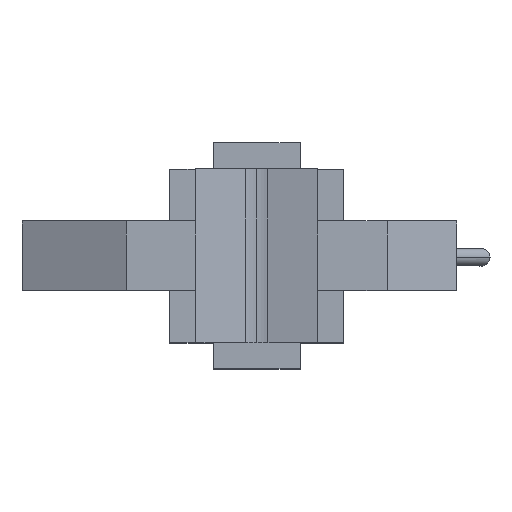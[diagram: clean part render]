
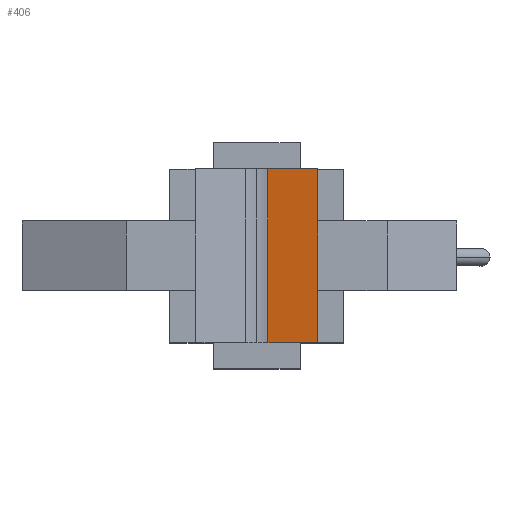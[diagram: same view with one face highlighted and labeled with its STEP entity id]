
A CAD part, top view. The second image highlights one B-rep face of the part: STEP entity #406.
In plain terms, the highlighted planar face has unit normal (-0.215, 0, 0.977) as drawn and (-0.977, 0.215, 0) by its records, which use the part's own axes.
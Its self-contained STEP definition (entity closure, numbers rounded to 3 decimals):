
#180 = EDGE_CURVE ( 'NONE', #830, #214, #1252, .T. ) ;
#212 = EDGE_CURVE ( 'NONE', #214, #651, #1264, .T. ) ;
#214 = VERTEX_POINT ( 'NONE', #1320 ) ;
#317 = EDGE_CURVE ( 'NONE', #318, #664, #1479, .T. ) ;
#318 = VERTEX_POINT ( 'NONE', #1475 ) ;
#372 = EDGE_CURVE ( 'NONE', #318, #654, #1525, .T. ) ;
#387 = ORIENTED_EDGE ( 'NONE', *, *, #889, .T. ) ;
#388 = ORIENTED_EDGE ( 'NONE', *, *, #317, .F. ) ;
#389 = ORIENTED_EDGE ( 'NONE', *, *, #372, .T. ) ;
#390 = ORIENTED_EDGE ( 'NONE', *, *, #653, .T. ) ;
#391 = ORIENTED_EDGE ( 'NONE', *, *, #212, .F. ) ;
#406 = ADVANCED_FACE ( 'NONE', ( #1565 ), #1564, .F. ) ;
#407 = EDGE_LOOP ( 'NONE', ( #408, #387, #388, #389, #390, #391 ) ) ;
#408 = ORIENTED_EDGE ( 'NONE', *, *, #180, .F. ) ;
#651 = VERTEX_POINT ( 'NONE', #1978 ) ;
#653 = EDGE_CURVE ( 'NONE', #654, #651, #1977, .T. ) ;
#654 = VERTEX_POINT ( 'NONE', #1973 ) ;
#664 = VERTEX_POINT ( 'NONE', #2021 ) ;
#830 = VERTEX_POINT ( 'NONE', #2321 ) ;
#889 = EDGE_CURVE ( 'NONE', #830, #664, #2361, .T. ) ;
#1249 = DIRECTION ( 'NONE',  ( 0., 0., -1. ) ) ;
#1250 = VECTOR ( 'NONE', #1249, 1000. ) ;
#1251 = CARTESIAN_POINT ( 'NONE',  ( 0., -3.5, 5. ) ) ;
#1252 = LINE ( 'NONE', #1251, #1250 ) ;
#1261 = DIRECTION ( 'NONE',  ( 0.215, 0.977, 0. ) ) ;
#1262 = VECTOR ( 'NONE', #1261, 1000. ) ;
#1263 = CARTESIAN_POINT ( 'NONE',  ( 0., -3.5, -5. ) ) ;
#1264 = LINE ( 'NONE', #1263, #1262 ) ;
#1320 = CARTESIAN_POINT ( 'NONE',  ( 0., -3.5, -5. ) ) ;
#1475 = CARTESIAN_POINT ( 'NONE',  ( 0., -3.5, 5. ) ) ;
#1476 = DIRECTION ( 'NONE',  ( 0., 0., -1. ) ) ;
#1477 = VECTOR ( 'NONE', #1476, 1000. ) ;
#1478 = CARTESIAN_POINT ( 'NONE',  ( 0., -3.5, 5. ) ) ;
#1479 = LINE ( 'NONE', #1478, #1477 ) ;
#1522 = DIRECTION ( 'NONE',  ( 0.215, 0.977, 0. ) ) ;
#1523 = VECTOR ( 'NONE', #1522, 1000. ) ;
#1524 = CARTESIAN_POINT ( 'NONE',  ( 0., -3.5, 5. ) ) ;
#1525 = LINE ( 'NONE', #1524, #1523 ) ;
#1560 = DIRECTION ( 'NONE',  ( 0.215, 0.977, 0. ) ) ;
#1561 = DIRECTION ( 'NONE',  ( 0.977, -0.215, 0. ) ) ;
#1562 = CARTESIAN_POINT ( 'NONE',  ( 0., -3.5, -6.5 ) ) ;
#1563 = AXIS2_PLACEMENT_3D ( 'NONE', #1562, #1561, #1560 ) ;
#1564 = PLANE ( 'NONE',  #1563 ) ;
#1565 = FACE_OUTER_BOUND ( 'NONE', #407, .T. ) ;
#1973 = CARTESIAN_POINT ( 'NONE',  ( 0.63, -0.646, 5. ) ) ;
#1974 = DIRECTION ( 'NONE',  ( 0., 0., -1. ) ) ;
#1975 = VECTOR ( 'NONE', #1974, 1000. ) ;
#1976 = CARTESIAN_POINT ( 'NONE',  ( 0.63, -0.646, -6.5 ) ) ;
#1977 = LINE ( 'NONE', #1976, #1975 ) ;
#1978 = CARTESIAN_POINT ( 'NONE',  ( 0.63, -0.646, -5. ) ) ;
#2021 = CARTESIAN_POINT ( 'NONE',  ( 0., -3.5, 2. ) ) ;
#2321 = CARTESIAN_POINT ( 'NONE',  ( 0., -3.5, -2. ) ) ;
#2358 = DIRECTION ( 'NONE',  ( 0., 0., 1. ) ) ;
#2359 = VECTOR ( 'NONE', #2358, 1000. ) ;
#2360 = CARTESIAN_POINT ( 'NONE',  ( 0., -3.5, -6.5 ) ) ;
#2361 = LINE ( 'NONE', #2360, #2359 ) ;
